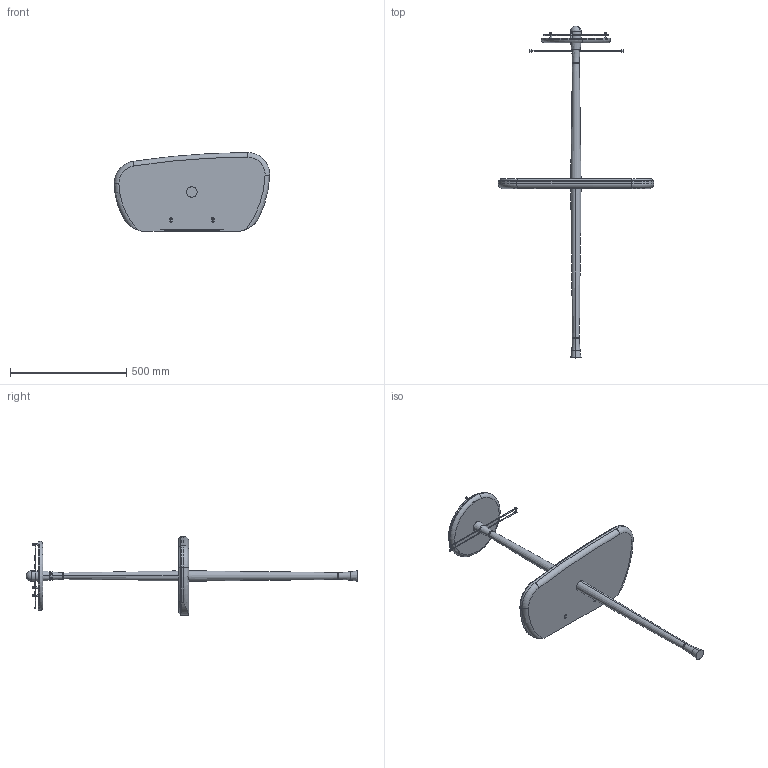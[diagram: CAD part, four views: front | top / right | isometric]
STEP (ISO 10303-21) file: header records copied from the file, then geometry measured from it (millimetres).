
FILE_DESCRIPTION (( 'STEP AP214' ), '1' );
FILE_NAME ('BAR.STEP', '2017-09-12T07:06:31', ( '' ), ( '' ), 'SwSTEP 2.0', 'SolidWorks 2016', '' );
FILE_SCHEMA (( 'AUTOMOTIVE_DESIGN' ));
Length unit declared in the file: millimetre
Products named in the file (13): 9_FRENO_VARILLA; 7_VARILLA_CIRCULAR; 8_PATA_VARILLA; 10_TERMINAL_BAR; 11_VARILLA_COPAS_BAR_40cm; 4_ANCLAJE_PARED; 3_BANDEJA_NOGAL_BAR; 5_PALO_SUPERIOR_BAR_ACT; 3_PLACA_MARMOL_BAR; 12_EMBELLECEDOR_VARILLA_BAR; 1_PALO_BASE_BAR; 6_BANDEJA_CIRCULAR; BAR
Assembly tree (20 placements, depth 2):
  BAR
    1_PALO_BASE_BAR
    4_ANCLAJE_PARED
    5_PALO_SUPERIOR_BAR_ACT
    6_BANDEJA_CIRCULAR
    8_PATA_VARILLA  x3
    7_VARILLA_CIRCULAR
    9_FRENO_VARILLA  x3
    10_TERMINAL_BAR
    12_EMBELLECEDOR_VARILLA_BAR  x4
    3_BANDEJA_NOGAL_BAR
    3_PLACA_MARMOL_BAR
    11_VARILLA_COPAS_BAR_40cm  x2
Bounding box: 670 x 1430.5 x 340 mm (x, y, z)
Volume: 11285753.9 mm3; surface area: 1256118.6 mm2
Topology: 20 solids, 20 shells, 301 faces, 713 edges, 447 vertices
Faces by surface type: cylinder 147, plane 82, torus 46, cone 24, sphere 2
Entity records: 8757 total; most frequent: CARTESIAN_POINT 2245, DIRECTION 1352, ORIENTED_EDGE 1142, EDGE_CURVE 571, AXIS2_PLACEMENT_3D 568, VERTEX_POINT 360, CIRCLE 306, EDGE_LOOP 285
